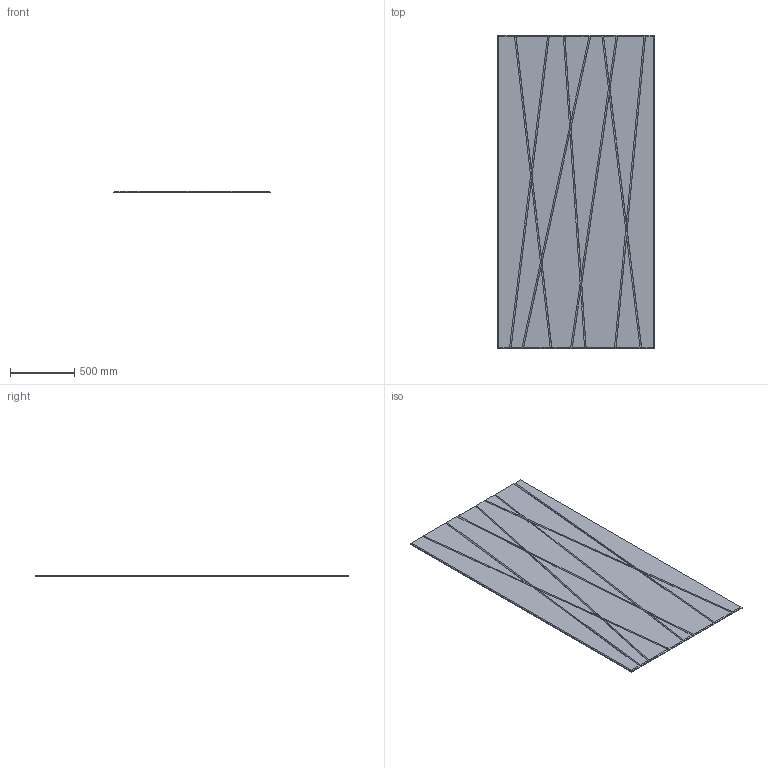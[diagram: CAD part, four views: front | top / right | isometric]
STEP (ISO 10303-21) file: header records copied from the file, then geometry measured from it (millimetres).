
FILE_DESCRIPTION(/* description */ (''),/* implementation_level */ '2;1');
FILE_NAME(/* name */ 'Y:\Design and Engineering\MaterialLogiq\CAD ASSETS\MASTER\PET ENGRAVED\WEB ASSETS\Organic 4.stp',/* time_stamp */ '2024-09-03T13:12:00-05:00',/* author */ ('Grant Baker'),/* organization */ (''),/* preprocessor_version */ 'ST-DEVELOPER v19',/* originating_system */ 'Autodesk Inventor 2023',/* authorisation */ '');
FILE_SCHEMA (('AUTOMOTIVE_DESIGN { 1 0 10303 214 3 1 1 }'));
Length unit declared in the file: inch
Products named in the file (1): Organic 4
Bounding box: 1219.2 x 2438.4 x 12.7 mm (x, y, z)
Volume: 36925027.8 mm3; surface area: 6099909.4 mm2
Topology: 1 solids, 1 shells, 75 faces, 157 edges, 84 vertices
Faces by surface type: plane 75
Entity records: 1920 total; most frequent: CARTESIAN_POINT 317, ORIENTED_EDGE 314, DIRECTION 309, LINE 157, VECTOR 157, EDGE_CURVE 157, VERTEX_POINT 84, AXIS2_PLACEMENT_3D 76
